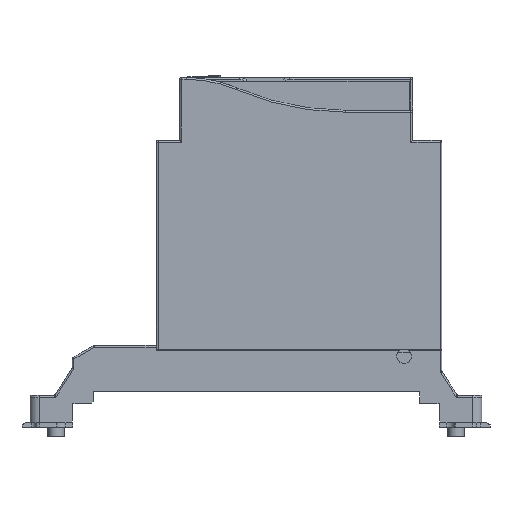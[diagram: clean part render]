
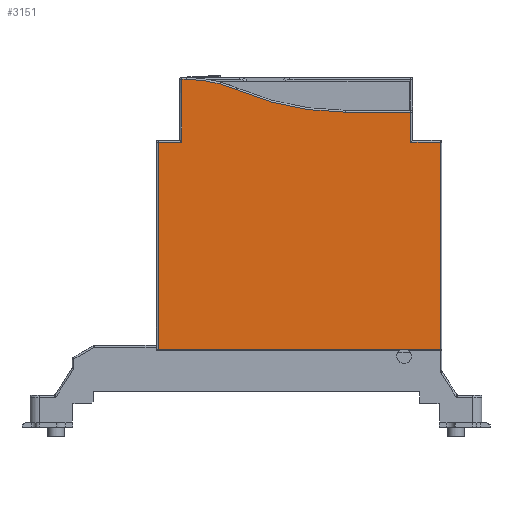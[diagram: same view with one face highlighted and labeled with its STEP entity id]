
A CAD part, front view. The second image highlights one B-rep face of the part: STEP entity #3151.
In plain terms, the highlighted planar face has unit normal (0, -1, 0).
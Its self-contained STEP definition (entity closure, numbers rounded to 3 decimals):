
#1928=FACE_OUTER_BOUND('',#5439,.T.);
#3151=ADVANCED_FACE('',(#1928),#4088,.T.);
#4088=PLANE('',#23908);
#5439=EDGE_LOOP('',(#10279,#10280,#10281,#10282,#10283,#10284,#10285,#10286,
#10287,#10288,#10289));
#6364=CIRCLE('',#23703,151.);
#6368=CIRCLE('',#23711,69.);
#10279=ORIENTED_EDGE('',*,*,#16889,.T.);
#10280=ORIENTED_EDGE('',*,*,#16904,.T.);
#10281=ORIENTED_EDGE('',*,*,#16875,.T.);
#10282=ORIENTED_EDGE('',*,*,#16905,.T.);
#10283=ORIENTED_EDGE('',*,*,#16869,.T.);
#10284=ORIENTED_EDGE('',*,*,#16881,.T.);
#10285=ORIENTED_EDGE('',*,*,#16906,.T.);
#10286=ORIENTED_EDGE('',*,*,#16907,.T.);
#10287=ORIENTED_EDGE('',*,*,#16611,.T.);
#10288=ORIENTED_EDGE('',*,*,#16609,.T.);
#10289=ORIENTED_EDGE('',*,*,#16616,.T.);
#14022=VERTEX_POINT('',#35128);
#14023=VERTEX_POINT('',#35130);
#14024=VERTEX_POINT('',#35134);
#14027=VERTEX_POINT('',#35144);
#14175=VERTEX_POINT('',#35646);
#14176=VERTEX_POINT('',#35648);
#14177=VERTEX_POINT('',#35658);
#14178=VERTEX_POINT('',#35660);
#14180=VERTEX_POINT('',#35669);
#14184=VERTEX_POINT('',#35683);
#14188=VERTEX_POINT('',#35718);
#16609=EDGE_CURVE('',#14022,#14023,#6364,.T.);
#16611=EDGE_CURVE('',#14024,#14022,#19306,.T.);
#16616=EDGE_CURVE('',#14023,#14027,#6368,.T.);
#16869=EDGE_CURVE('',#14176,#14175,#19500,.T.);
#16875=EDGE_CURVE('',#14178,#14177,#19504,.T.);
#16881=EDGE_CURVE('',#14175,#14180,#19506,.T.);
#16889=EDGE_CURVE('',#14027,#14184,#19513,.T.);
#16904=EDGE_CURVE('',#14184,#14178,#19521,.T.);
#16905=EDGE_CURVE('',#14177,#14176,#19522,.T.);
#16906=EDGE_CURVE('',#14180,#14188,#19523,.T.);
#16907=EDGE_CURVE('',#14188,#14024,#19524,.T.);
#19306=LINE('',#35135,#21623);
#19500=LINE('',#35647,#21817);
#19504=LINE('',#35659,#21821);
#19506=LINE('',#35670,#21823);
#19513=LINE('',#35684,#21830);
#19521=LINE('',#35715,#21838);
#19522=LINE('',#35716,#21839);
#19523=LINE('',#35717,#21840);
#19524=LINE('',#35719,#21841);
#21623=VECTOR('',#27573,1.);
#21817=VECTOR('',#28101,1.);
#21821=VECTOR('',#28117,1.);
#21823=VECTOR('',#28131,1.);
#21830=VECTOR('',#28144,1.);
#21838=VECTOR('',#28192,1.);
#21839=VECTOR('',#28193,1.);
#21840=VECTOR('',#28194,1.);
#21841=VECTOR('',#28195,1.);
#23703=AXIS2_PLACEMENT_3D('',#35131,#27567,#27568);
#23711=AXIS2_PLACEMENT_3D('',#35145,#27585,#27586);
#23908=AXIS2_PLACEMENT_3D('',#35720,#28196,#28197);
#27567=DIRECTION('',(0.,1.,0.));
#27568=DIRECTION('',(0.,0.,-1.));
#27573=DIRECTION('',(-1.,0.,0.));
#27585=DIRECTION('',(0.,-1.,0.));
#27586=DIRECTION('',(0.,0.,-1.));
#28101=DIRECTION('',(1.,0.,0.));
#28117=DIRECTION('',(-1.,0.,0.));
#28131=DIRECTION('',(0.,0.,1.));
#28144=DIRECTION('',(-1.,0.,0.));
#28192=DIRECTION('',(0.,0.,-1.));
#28193=DIRECTION('',(0.,0.,-1.));
#28194=DIRECTION('',(-1.,0.,0.));
#28195=DIRECTION('',(0.,0.,1.));
#28196=DIRECTION('',(0.,-1.,0.));
#28197=DIRECTION('',(0.,0.,1.));
#35128=CARTESIAN_POINT('',(177.455,44.,266.));
#35130=CARTESIAN_POINT('',(117.635,44.,278.355));
#35131=CARTESIAN_POINT('',(177.455,44.,417.));
#35134=CARTESIAN_POINT('',(213.6,44.,266.));
#35135=CARTESIAN_POINT('',(177.455,44.,266.));
#35144=CARTESIAN_POINT('',(90.3,44.,284.));
#35145=CARTESIAN_POINT('',(90.3,44.,215.));
#35646=CARTESIAN_POINT('',(229.6,44.,135.6));
#35647=CARTESIAN_POINT('',(152.15,44.,135.6));
#35648=CARTESIAN_POINT('',(74.7,44.,135.6));
#35658=CARTESIAN_POINT('',(74.7,44.,249.5));
#35659=CARTESIAN_POINT('',(74.7,44.,249.5));
#35660=CARTESIAN_POINT('',(87.7,44.,249.5));
#35669=CARTESIAN_POINT('',(229.6,44.,249.5));
#35670=CARTESIAN_POINT('',(229.6,44.,135.6));
#35683=CARTESIAN_POINT('',(87.7,44.,284.));
#35684=CARTESIAN_POINT('',(152.15,44.,284.));
#35715=CARTESIAN_POINT('',(87.7,44.,250.5));
#35716=CARTESIAN_POINT('',(74.7,44.,135.6));
#35717=CARTESIAN_POINT('',(214.6,44.,249.5));
#35718=CARTESIAN_POINT('',(213.6,44.,249.5));
#35719=CARTESIAN_POINT('',(213.6,44.,267.));
#35720=CARTESIAN_POINT('',(152.15,44.,135.6));
